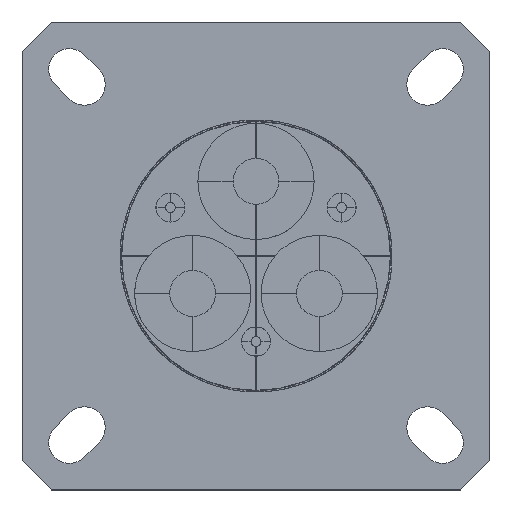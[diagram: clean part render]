
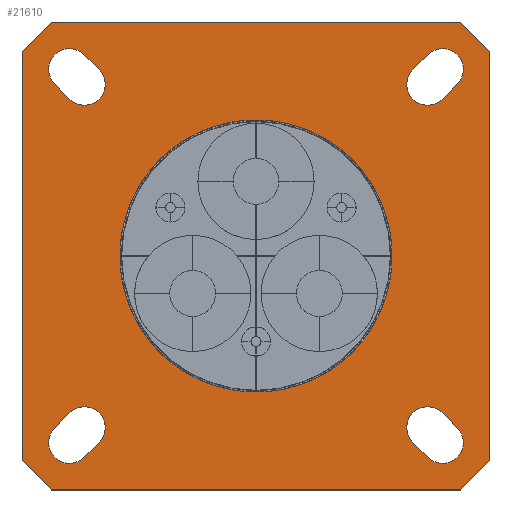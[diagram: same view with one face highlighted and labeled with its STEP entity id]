
A CAD part, top view. The second image highlights one B-rep face of the part: STEP entity #21610.
In plain terms, the highlighted planar face has unit normal (0, 0, 1).
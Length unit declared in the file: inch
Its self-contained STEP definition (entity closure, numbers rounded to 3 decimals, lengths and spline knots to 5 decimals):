
#4659=CARTESIAN_POINT('',(0.,0.,0.));
#4660=DIRECTION('',(0.,0.,1.));
#4661=DIRECTION('',(-1.,0.,0.));
#4662=AXIS2_PLACEMENT_3D('',#4659,#4660,#4661);
#7732=DIRECTION('',(0.707,0.707,0.));
#7733=VECTOR('',#7732,0.128);
#7734=CARTESIAN_POINT('',(-0.7245,0.63399,0.));
#7735=LINE('',#7734,#7733);
#7736=DIRECTION('',(1.,0.,0.));
#7737=VECTOR('',#7736,1.26798);
#7738=CARTESIAN_POINT('',(-0.63399,0.7245,0.));
#7739=LINE('',#7738,#7737);
#7740=DIRECTION('',(0.707,-0.707,0.));
#7741=VECTOR('',#7740,0.128);
#7742=CARTESIAN_POINT('',(0.63399,0.7245,0.));
#7743=LINE('',#7742,#7741);
#7744=DIRECTION('',(0.,-1.,0.));
#7745=VECTOR('',#7744,1.26798);
#7746=CARTESIAN_POINT('',(0.7245,0.63399,0.));
#7747=LINE('',#7746,#7745);
#7748=DIRECTION('',(-0.707,-0.707,0.));
#7749=VECTOR('',#7748,0.128);
#7750=CARTESIAN_POINT('',(0.7245,-0.63399,0.));
#7751=LINE('',#7750,#7749);
#7752=DIRECTION('',(-1.,0.,0.));
#7753=VECTOR('',#7752,1.26798);
#7754=CARTESIAN_POINT('',(0.63399,-0.7245,0.));
#7755=LINE('',#7754,#7753);
#7756=DIRECTION('',(-0.707,0.707,0.));
#7757=VECTOR('',#7756,0.128);
#7758=CARTESIAN_POINT('',(-0.63399,-0.7245,0.));
#7759=LINE('',#7758,#7757);
#7760=DIRECTION('',(0.,1.,0.));
#7761=VECTOR('',#7760,1.26798);
#7762=CARTESIAN_POINT('',(-0.7245,-0.63399,0.));
#7763=LINE('',#7762,#7761);
#7764=DIRECTION('',(-0.707,-0.707,0.));
#7765=VECTOR('',#7764,0.06647);
#7766=CARTESIAN_POINT('',(-0.57625,-0.48575,0.));
#7767=LINE('',#7766,#7765);
#7768=CARTESIAN_POINT('',(-0.578,-0.578,0.));
#7769=DIRECTION('',(0.,0.,1.));
#7770=DIRECTION('',(-0.707,0.707,0.));
#7771=AXIS2_PLACEMENT_3D('',#7768,#7769,#7770);
#7773=DIRECTION('',(0.707,0.707,0.));
#7774=VECTOR('',#7773,0.06647);
#7775=CARTESIAN_POINT('',(-0.53275,-0.62325,0.));
#7776=LINE('',#7775,#7774);
#7777=CARTESIAN_POINT('',(-0.531,-0.531,0.));
#7778=DIRECTION('',(0.,0.,1.));
#7779=DIRECTION('',(0.707,-0.707,0.));
#7780=AXIS2_PLACEMENT_3D('',#7777,#7778,#7779);
#7782=DIRECTION('',(0.707,-0.707,0.));
#7783=VECTOR('',#7782,0.06647);
#7784=CARTESIAN_POINT('',(-0.62325,0.53275,0.));
#7785=LINE('',#7784,#7783);
#7786=CARTESIAN_POINT('',(-0.531,0.531,0.));
#7787=DIRECTION('',(0.,0.,1.));
#7788=DIRECTION('',(-0.707,-0.707,0.));
#7789=AXIS2_PLACEMENT_3D('',#7786,#7787,#7788);
#7791=DIRECTION('',(-0.707,0.707,0.));
#7792=VECTOR('',#7791,0.06647);
#7793=CARTESIAN_POINT('',(-0.48575,0.57625,0.));
#7794=LINE('',#7793,#7792);
#7795=CARTESIAN_POINT('',(-0.578,0.578,0.));
#7796=DIRECTION('',(0.,0.,1.));
#7797=DIRECTION('',(0.707,0.707,0.));
#7798=AXIS2_PLACEMENT_3D('',#7795,#7796,#7797);
#7800=DIRECTION('',(-0.707,-0.707,0.));
#7801=VECTOR('',#7800,0.06647);
#7802=CARTESIAN_POINT('',(0.53275,0.62325,0.));
#7803=LINE('',#7802,#7801);
#7804=CARTESIAN_POINT('',(0.531,0.531,0.));
#7805=DIRECTION('',(0.,0.,1.));
#7806=DIRECTION('',(-0.707,0.707,0.));
#7807=AXIS2_PLACEMENT_3D('',#7804,#7805,#7806);
#7809=DIRECTION('',(0.707,0.707,0.));
#7810=VECTOR('',#7809,0.06647);
#7811=CARTESIAN_POINT('',(0.57625,0.48575,0.));
#7812=LINE('',#7811,#7810);
#7813=CARTESIAN_POINT('',(0.578,0.578,0.));
#7814=DIRECTION('',(0.,0.,1.));
#7815=DIRECTION('',(0.707,-0.707,0.));
#7816=AXIS2_PLACEMENT_3D('',#7813,#7814,#7815);
#7818=CARTESIAN_POINT('',(0.531,-0.531,0.));
#7819=DIRECTION('',(0.,0.,1.));
#7820=DIRECTION('',(0.707,0.707,0.));
#7821=AXIS2_PLACEMENT_3D('',#7818,#7819,#7820);
#7823=DIRECTION('',(0.707,-0.707,0.));
#7824=VECTOR('',#7823,0.06647);
#7825=CARTESIAN_POINT('',(0.48575,-0.57625,0.));
#7826=LINE('',#7825,#7824);
#7827=CARTESIAN_POINT('',(0.578,-0.578,0.));
#7828=DIRECTION('',(0.,0.,1.));
#7829=DIRECTION('',(-0.707,-0.707,0.));
#7830=AXIS2_PLACEMENT_3D('',#7827,#7828,#7829);
#7832=DIRECTION('',(-0.707,0.707,0.));
#7833=VECTOR('',#7832,0.06647);
#7834=CARTESIAN_POINT('',(0.62325,-0.53275,0.));
#7835=LINE('',#7834,#7833);
#8036=CARTESIAN_POINT('',(0.,0.,0.));
#8037=DIRECTION('',(0.,0.,1.));
#8038=DIRECTION('',(1.,0.,0.));
#8039=AXIS2_PLACEMENT_3D('',#8036,#8037,#8038);
#19048=CARTESIAN_POINT('',(-0.7245,0.63399,0.));
#19049=CARTESIAN_POINT('',(-0.63399,0.7245,0.));
#19050=VERTEX_POINT('',#19048);
#19051=VERTEX_POINT('',#19049);
#19052=CARTESIAN_POINT('',(0.63399,0.7245,0.));
#19053=VERTEX_POINT('',#19052);
#19054=CARTESIAN_POINT('',(0.7245,0.63399,0.));
#19055=VERTEX_POINT('',#19054);
#19056=CARTESIAN_POINT('',(0.7245,-0.63399,0.));
#19057=VERTEX_POINT('',#19056);
#19058=CARTESIAN_POINT('',(0.63399,-0.7245,0.));
#19059=VERTEX_POINT('',#19058);
#19060=CARTESIAN_POINT('',(-0.63399,-0.7245,0.));
#19061=VERTEX_POINT('',#19060);
#19062=CARTESIAN_POINT('',(-0.7245,-0.63399,0.));
#19063=VERTEX_POINT('',#19062);
#19064=CARTESIAN_POINT('',(-0.57625,-0.48575,0.));
#19065=CARTESIAN_POINT('',(-0.62325,-0.53275,0.));
#19066=VERTEX_POINT('',#19064);
#19067=VERTEX_POINT('',#19065);
#19068=CARTESIAN_POINT('',(-0.53275,-0.62325,0.));
#19069=VERTEX_POINT('',#19068);
#19070=CARTESIAN_POINT('',(-0.48575,-0.57625,0.));
#19071=VERTEX_POINT('',#19070);
#19072=CARTESIAN_POINT('',(-0.62325,0.53275,0.));
#19073=CARTESIAN_POINT('',(-0.57625,0.48575,0.));
#19074=VERTEX_POINT('',#19072);
#19075=VERTEX_POINT('',#19073);
#19076=CARTESIAN_POINT('',(-0.48575,0.57625,0.));
#19077=VERTEX_POINT('',#19076);
#19078=CARTESIAN_POINT('',(-0.53275,0.62325,0.));
#19079=VERTEX_POINT('',#19078);
#19080=CARTESIAN_POINT('',(0.53275,0.62325,0.));
#19081=CARTESIAN_POINT('',(0.48575,0.57625,0.));
#19082=VERTEX_POINT('',#19080);
#19083=VERTEX_POINT('',#19081);
#19084=CARTESIAN_POINT('',(0.57625,0.48575,0.));
#19085=VERTEX_POINT('',#19084);
#19086=CARTESIAN_POINT('',(0.62325,0.53275,0.));
#19087=VERTEX_POINT('',#19086);
#19088=CARTESIAN_POINT('',(0.57625,-0.48575,0.));
#19089=CARTESIAN_POINT('',(0.48575,-0.57625,0.));
#19090=VERTEX_POINT('',#19088);
#19091=VERTEX_POINT('',#19089);
#19092=CARTESIAN_POINT('',(0.53275,-0.62325,0.));
#19093=VERTEX_POINT('',#19092);
#19094=CARTESIAN_POINT('',(0.62325,-0.53275,0.));
#19095=VERTEX_POINT('',#19094);
#19144=CARTESIAN_POINT('',(0.421,0.,0.));
#19145=CARTESIAN_POINT('',(-0.421,0.,0.));
#19146=VERTEX_POINT('',#19144);
#19147=VERTEX_POINT('',#19145);
#21542=CARTESIAN_POINT('',(0.,0.,0.));
#21543=DIRECTION('',(0.,0.,-1.));
#21544=DIRECTION('',(0.,-1.,0.));
#21545=AXIS2_PLACEMENT_3D('',#21542,#21543,#21544);
#21546=PLANE('',#21545);
#21548=ORIENTED_EDGE('',*,*,#21547,.T.);
#21550=ORIENTED_EDGE('',*,*,#21549,.T.);
#21552=ORIENTED_EDGE('',*,*,#21551,.T.);
#21554=ORIENTED_EDGE('',*,*,#21553,.T.);
#21556=ORIENTED_EDGE('',*,*,#21555,.T.);
#21558=ORIENTED_EDGE('',*,*,#21557,.T.);
#21560=ORIENTED_EDGE('',*,*,#21559,.T.);
#21562=ORIENTED_EDGE('',*,*,#21561,.T.);
#21563=EDGE_LOOP('',(#21548,#21550,#21552,#21554,#21556,#21558,#21560,#21562));
#21564=FACE_OUTER_BOUND('',#21563,.F.);
#21566=ORIENTED_EDGE('',*,*,#21565,.T.);
#21568=ORIENTED_EDGE('',*,*,#21567,.T.);
#21570=ORIENTED_EDGE('',*,*,#21569,.T.);
#21572=ORIENTED_EDGE('',*,*,#21571,.T.);
#21573=EDGE_LOOP('',(#21566,#21568,#21570,#21572));
#21574=FACE_BOUND('',#21573,.F.);
#21576=ORIENTED_EDGE('',*,*,#21575,.T.);
#21578=ORIENTED_EDGE('',*,*,#21577,.T.);
#21580=ORIENTED_EDGE('',*,*,#21579,.T.);
#21582=ORIENTED_EDGE('',*,*,#21581,.T.);
#21583=EDGE_LOOP('',(#21576,#21578,#21580,#21582));
#21584=FACE_BOUND('',#21583,.F.);
#21586=ORIENTED_EDGE('',*,*,#21585,.T.);
#21588=ORIENTED_EDGE('',*,*,#21587,.T.);
#21590=ORIENTED_EDGE('',*,*,#21589,.T.);
#21592=ORIENTED_EDGE('',*,*,#21591,.T.);
#21593=EDGE_LOOP('',(#21586,#21588,#21590,#21592));
#21594=FACE_BOUND('',#21593,.F.);
#21596=ORIENTED_EDGE('',*,*,#21595,.T.);
#21598=ORIENTED_EDGE('',*,*,#21597,.T.);
#21600=ORIENTED_EDGE('',*,*,#21599,.T.);
#21602=ORIENTED_EDGE('',*,*,#21601,.T.);
#21603=EDGE_LOOP('',(#21596,#21598,#21600,#21602));
#21604=FACE_BOUND('',#21603,.F.);
#21606=ORIENTED_EDGE('',*,*,#21605,.T.);
#21607=ORIENTED_EDGE('',*,*,#20633,.T.);
#21608=EDGE_LOOP('',(#21606,#21607));
#21609=FACE_BOUND('',#21608,.F.);
#21610=ADVANCED_FACE('',(#21564,#21574,#21584,#21594,#21604,#21609),#21546,.F.);
#4663=CIRCLE('',#4662,0.421);
#7772=CIRCLE('',#7771,0.064);
#7781=CIRCLE('',#7780,0.064);
#7790=CIRCLE('',#7789,0.064);
#7799=CIRCLE('',#7798,0.064);
#7808=CIRCLE('',#7807,0.064);
#7817=CIRCLE('',#7816,0.064);
#7822=CIRCLE('',#7821,0.064);
#7831=CIRCLE('',#7830,0.064);
#8040=CIRCLE('',#8039,0.421);
#20633=EDGE_CURVE('',#19147,#19146,#4663,.T.);
#21547=EDGE_CURVE('',#19050,#19051,#7735,.T.);
#21549=EDGE_CURVE('',#19051,#19053,#7739,.T.);
#21551=EDGE_CURVE('',#19053,#19055,#7743,.T.);
#21553=EDGE_CURVE('',#19055,#19057,#7747,.T.);
#21555=EDGE_CURVE('',#19057,#19059,#7751,.T.);
#21557=EDGE_CURVE('',#19059,#19061,#7755,.T.);
#21559=EDGE_CURVE('',#19061,#19063,#7759,.T.);
#21561=EDGE_CURVE('',#19063,#19050,#7763,.T.);
#21565=EDGE_CURVE('',#19066,#19067,#7767,.T.);
#21567=EDGE_CURVE('',#19067,#19069,#7772,.T.);
#21569=EDGE_CURVE('',#19069,#19071,#7776,.T.);
#21571=EDGE_CURVE('',#19071,#19066,#7781,.T.);
#21575=EDGE_CURVE('',#19074,#19075,#7785,.T.);
#21577=EDGE_CURVE('',#19075,#19077,#7790,.T.);
#21579=EDGE_CURVE('',#19077,#19079,#7794,.T.);
#21581=EDGE_CURVE('',#19079,#19074,#7799,.T.);
#21585=EDGE_CURVE('',#19082,#19083,#7803,.T.);
#21587=EDGE_CURVE('',#19083,#19085,#7808,.T.);
#21589=EDGE_CURVE('',#19085,#19087,#7812,.T.);
#21591=EDGE_CURVE('',#19087,#19082,#7817,.T.);
#21595=EDGE_CURVE('',#19090,#19091,#7822,.T.);
#21597=EDGE_CURVE('',#19091,#19093,#7826,.T.);
#21599=EDGE_CURVE('',#19093,#19095,#7831,.T.);
#21601=EDGE_CURVE('',#19095,#19090,#7835,.T.);
#21605=EDGE_CURVE('',#19146,#19147,#8040,.T.);
